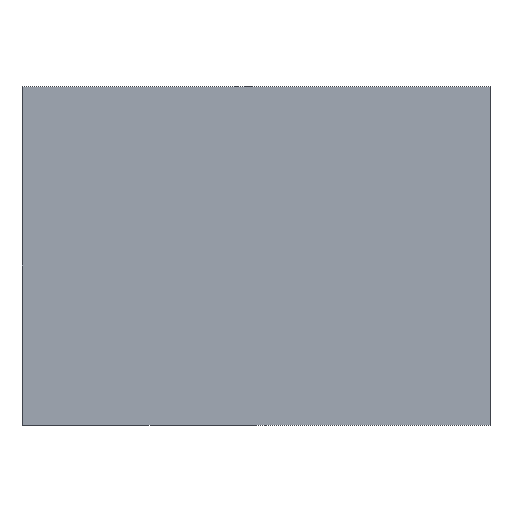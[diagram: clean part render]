
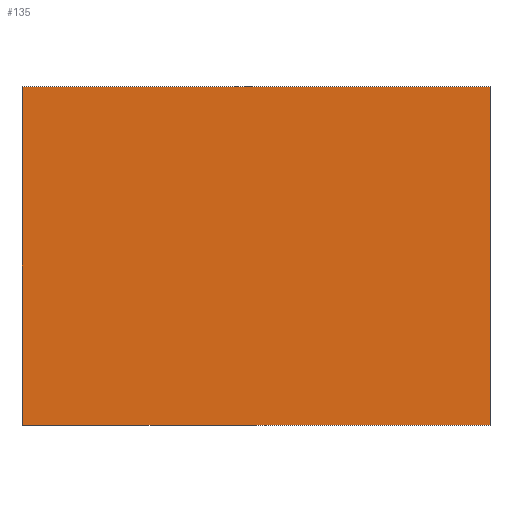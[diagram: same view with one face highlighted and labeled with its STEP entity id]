
A CAD part, top view. The second image highlights one B-rep face of the part: STEP entity #135.
In plain terms, the highlighted planar face has unit normal (0, 0, 1).
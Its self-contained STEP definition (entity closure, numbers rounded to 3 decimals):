
#3 = VERTEX_POINT ( 'NONE', #117 ) ;
#14 = EDGE_CURVE ( 'NONE', #87, #3, #129, .T. ) ;
#28 = LINE ( 'NONE', #141, #40 ) ;
#29 = CARTESIAN_POINT ( 'NONE',  ( -752.5, 543.75, 18. ) ) ;
#37 = AXIS2_PLACEMENT_3D ( 'NONE', #136, #185, #180 ) ;
#40 = VECTOR ( 'NONE', #153, 1000. ) ;
#45 = VERTEX_POINT ( 'NONE', #98 ) ;
#47 = EDGE_CURVE ( 'NONE', #88, #45, #61, .T. ) ;
#56 = FACE_OUTER_BOUND ( 'NONE', #196, .T. ) ;
#61 = LINE ( 'NONE', #118, #120 ) ;
#78 = DIRECTION ( 'NONE',  ( 0., 1., 0. ) ) ;
#79 = CARTESIAN_POINT ( 'NONE',  ( 752.5, -543.75, 18. ) ) ;
#85 = DIRECTION ( 'NONE',  ( -1., 0., 0. ) ) ;
#87 = VERTEX_POINT ( 'NONE', #79 ) ;
#88 = VERTEX_POINT ( 'NONE', #156 ) ;
#98 = CARTESIAN_POINT ( 'NONE',  ( -752.5, -543.75, 18. ) ) ;
#110 = ORIENTED_EDGE ( 'NONE', *, *, #14, .T. ) ;
#113 = DIRECTION ( 'NONE',  ( 0., -1., 0. ) ) ;
#117 = CARTESIAN_POINT ( 'NONE',  ( 752.5, 543.75, 18. ) ) ;
#118 = CARTESIAN_POINT ( 'NONE',  ( -752.5, 543.75, 18. ) ) ;
#120 = VECTOR ( 'NONE', #113, 1000. ) ;
#129 = LINE ( 'NONE', #165, #163 ) ;
#135 = ADVANCED_FACE ( 'NONE', ( #56 ), #171, .T. ) ;
#136 = CARTESIAN_POINT ( 'NONE',  ( 0., 0., 18. ) ) ;
#140 = EDGE_CURVE ( 'NONE', #3, #88, #197, .T. ) ;
#141 = CARTESIAN_POINT ( 'NONE',  ( -752.5, -543.75, 18. ) ) ;
#148 = ORIENTED_EDGE ( 'NONE', *, *, #140, .T. ) ;
#153 = DIRECTION ( 'NONE',  ( 1., 0., 0. ) ) ;
#156 = CARTESIAN_POINT ( 'NONE',  ( -752.5, 543.75, 18. ) ) ;
#163 = VECTOR ( 'NONE', #78, 1000. ) ;
#165 = CARTESIAN_POINT ( 'NONE',  ( 752.5, 543.75, 18. ) ) ;
#171 = PLANE ( 'NONE',  #37 ) ;
#174 = ORIENTED_EDGE ( 'NONE', *, *, #183, .T. ) ;
#176 = ORIENTED_EDGE ( 'NONE', *, *, #47, .T. ) ;
#180 = DIRECTION ( 'NONE',  ( 1., 0., 0. ) ) ;
#183 = EDGE_CURVE ( 'NONE', #45, #87, #28, .T. ) ;
#185 = DIRECTION ( 'NONE',  ( 0., 0., 1. ) ) ;
#187 = VECTOR ( 'NONE', #85, 1000. ) ;
#196 = EDGE_LOOP ( 'NONE', ( #176, #174, #110, #148 ) ) ;
#197 = LINE ( 'NONE', #29, #187 ) ;
